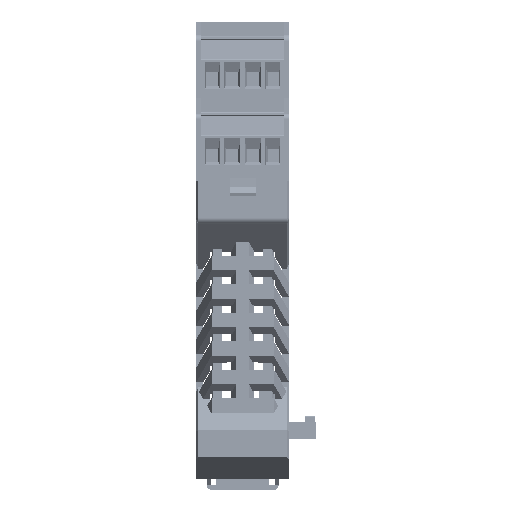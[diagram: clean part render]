
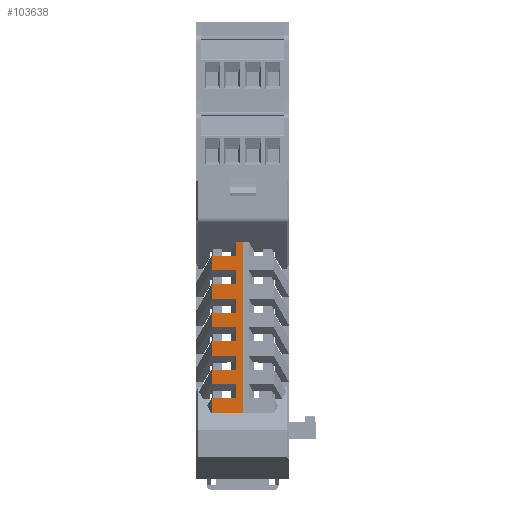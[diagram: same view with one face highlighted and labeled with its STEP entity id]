
A CAD part, front view. The second image highlights one B-rep face of the part: STEP entity #103638.
In plain terms, the highlighted planar face has unit normal (0, -1, 0) as drawn and (1, 0, 0) by its records, which use the part's own axes.
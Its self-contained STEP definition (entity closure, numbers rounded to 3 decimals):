
#103638=ADVANCED_FACE('',(#220617),#220619,.T.);
#220617=FACE_BOUND('',#220618,.T.);
#220618=EDGE_LOOP('',(#314801,#314802,#314803,#314804,#314805,#314806,#314807,#314808,
#314809,#314810,#314811,#314812,#314813,#314814,#314815,#314816,#314817,#314818,
#314819,#314820,#314821,#314822,#314823,#314824,#314825,#314826));
#220619=PLANE('',#220620);
#220620=AXIS2_PLACEMENT_3D('',#220621,#220622,#220623);
#220621=CARTESIAN_POINT('',(42.55,76.5,0.));
#220622=DIRECTION('',(1.,0.,0.));
#220623=DIRECTION('',(0.,0.,-1.));
#314801=ORIENTED_EDGE('',*,*,#370583,.F.);
#314802=ORIENTED_EDGE('',*,*,#370522,.F.);
#314803=ORIENTED_EDGE('',*,*,#370584,.F.);
#314804=ORIENTED_EDGE('',*,*,#370585,.T.);
#314805=ORIENTED_EDGE('',*,*,#370086,.T.);
#314806=ORIENTED_EDGE('',*,*,#370586,.F.);
#314807=ORIENTED_EDGE('',*,*,#370452,.F.);
#314808=ORIENTED_EDGE('',*,*,#370517,.F.);
#314809=ORIENTED_EDGE('',*,*,#370247,.F.);
#314810=ORIENTED_EDGE('',*,*,#370563,.T.);
#314811=ORIENTED_EDGE('',*,*,#370541,.F.);
#314812=ORIENTED_EDGE('',*,*,#370514,.F.);
#314813=ORIENTED_EDGE('',*,*,#370569,.F.);
#314814=ORIENTED_EDGE('',*,*,#370587,.T.);
#314815=ORIENTED_EDGE('',*,*,#370570,.T.);
#314816=ORIENTED_EDGE('',*,*,#370528,.F.);
#314817=ORIENTED_EDGE('',*,*,#370582,.T.);
#314818=ORIENTED_EDGE('',*,*,#370588,.T.);
#314819=ORIENTED_EDGE('',*,*,#370589,.T.);
#314820=ORIENTED_EDGE('',*,*,#370525,.F.);
#314821=ORIENTED_EDGE('',*,*,#370504,.T.);
#314822=ORIENTED_EDGE('',*,*,#370590,.F.);
#314823=ORIENTED_EDGE('',*,*,#370484,.T.);
#314824=ORIENTED_EDGE('',*,*,#370524,.F.);
#314825=ORIENTED_EDGE('',*,*,#370497,.T.);
#314826=ORIENTED_EDGE('',*,*,#370591,.T.);
#370086=EDGE_CURVE('',#435213,#435211,#435214,.T.);
#370247=EDGE_CURVE('',#435487,#435489,#435490,.T.);
#370452=EDGE_CURVE('',#435834,#435836,#435837,.T.);
#370484=EDGE_CURVE('',#435878,#435884,#435886,.T.);
#370497=EDGE_CURVE('',#435906,#435904,#435907,.T.);
#370504=EDGE_CURVE('',#435910,#435914,#435916,.T.);
#370514=EDGE_CURVE('',#435931,#435933,#435934,.T.);
#370517=EDGE_CURVE('',#435489,#435834,#435938,.T.);
#370522=EDGE_CURVE('',#435945,#435947,#435948,.T.);
#370524=EDGE_CURVE('',#435906,#435884,#435950,.T.);
#370525=EDGE_CURVE('',#435910,#435951,#435952,.T.);
#370528=EDGE_CURVE('',#435954,#435956,#435957,.T.);
#370541=EDGE_CURVE('',#435933,#435976,#435977,.T.);
#370563=EDGE_CURVE('',#435487,#435976,#436012,.T.);
#370569=EDGE_CURVE('',#436019,#435931,#436021,.T.);
#370570=EDGE_CURVE('',#436022,#435956,#436023,.T.);
#370582=EDGE_CURVE('',#435954,#436037,#436039,.T.);
#370583=EDGE_CURVE('',#435947,#436040,#436041,.T.);
#370584=EDGE_CURVE('',#436042,#435945,#436043,.T.);
#370585=EDGE_CURVE('',#436042,#435213,#436044,.T.);
#370586=EDGE_CURVE('',#435836,#435211,#436045,.T.);
#370587=EDGE_CURVE('',#436019,#436022,#436046,.T.);
#370588=EDGE_CURVE('',#436037,#436047,#436048,.T.);
#370589=EDGE_CURVE('',#436047,#435951,#436049,.T.);
#370590=EDGE_CURVE('',#435878,#435914,#436050,.T.);
#370591=EDGE_CURVE('',#435904,#436040,#436051,.T.);
#435211=VERTEX_POINT('',#585364);
#435213=VERTEX_POINT('',#585368);
#435214=LINE('',#585369,#585370);
#435487=VERTEX_POINT('',#585971);
#435489=VERTEX_POINT('',#585975);
#435490=LINE('',#585976,#585977);
#435834=VERTEX_POINT('',#586746);
#435836=VERTEX_POINT('',#586750);
#435837=LINE('',#586751,#586752);
#435878=VERTEX_POINT('',#586846);
#435884=VERTEX_POINT('',#586860);
#435886=LINE('',#586864,#586865);
#435904=VERTEX_POINT('',#586906);
#435906=VERTEX_POINT('',#586910);
#435907=LINE('',#586911,#586912);
#435910=VERTEX_POINT('',#586920);
#435914=VERTEX_POINT('',#586930);
#435916=LINE('',#586934,#586935);
#435931=VERTEX_POINT('',#586967);
#435933=VERTEX_POINT('',#586971);
#435934=LINE('',#586972,#586973);
#435938=LINE('',#586982,#586983);
#435945=VERTEX_POINT('',#586997);
#435947=VERTEX_POINT('',#587001);
#435948=LINE('',#587002,#587003);
#435950=LINE('',#587008,#587009);
#435951=VERTEX_POINT('',#587011);
#435952=LINE('',#587012,#587013);
#435954=VERTEX_POINT('',#587018);
#435956=VERTEX_POINT('',#587022);
#435957=LINE('',#587023,#587024);
#435976=VERTEX_POINT('',#587068);
#435977=LINE('',#587069,#587070);
#436012=LINE('',#587148,#587149);
#436019=VERTEX_POINT('',#587165);
#436021=LINE('',#587169,#587170);
#436022=VERTEX_POINT('',#587172);
#436023=LINE('',#587173,#587174);
#436037=VERTEX_POINT('',#587209);
#436039=LINE('',#587213,#587214);
#436040=VERTEX_POINT('',#587216);
#436041=LINE('',#587217,#587218);
#436042=VERTEX_POINT('',#587220);
#436043=LINE('',#587221,#587222);
#436044=LINE('',#587224,#587225);
#436045=LINE('',#587227,#587228);
#436046=LINE('',#587230,#587231);
#436047=VERTEX_POINT('',#587233);
#436048=LINE('',#587234,#587235);
#436049=LINE('',#587237,#587238);
#436050=LINE('',#587240,#587241);
#436051=LINE('',#587243,#587244);
#585364=CARTESIAN_POINT('',(42.55,20.,0.));
#585368=CARTESIAN_POINT('',(42.55,20.,7.547));
#585369=CARTESIAN_POINT('',(42.55,20.,7.547));
#585370=VECTOR('',#585371,1.);
#585371=DIRECTION('',(0.,0.,-1.));
#585971=CARTESIAN_POINT('',(42.55,58.2,7.547));
#585975=CARTESIAN_POINT('',(42.55,58.2,1.5));
#585976=CARTESIAN_POINT('',(42.55,58.2,7.547));
#585977=VECTOR('',#585978,1.);
#585978=DIRECTION('',(0.,0.,-1.));
#586746=CARTESIAN_POINT('',(42.55,61.6,1.5));
#586750=CARTESIAN_POINT('',(42.55,61.6,0.));
#586751=CARTESIAN_POINT('',(42.55,61.6,1.5));
#586752=VECTOR('',#586753,1.);
#586753=DIRECTION('',(0.,0.,-1.));
#586846=CARTESIAN_POINT('',(42.55,34.,7.547));
#586860=CARTESIAN_POINT('',(42.55,34.,1.5));
#586864=CARTESIAN_POINT('',(42.55,34.,7.547));
#586865=VECTOR('',#586866,1.);
#586866=DIRECTION('',(0.,0.,-1.));
#586906=CARTESIAN_POINT('',(42.55,30.6,7.547));
#586910=CARTESIAN_POINT('',(42.55,30.6,1.5));
#586911=CARTESIAN_POINT('',(42.55,30.6,1.5));
#586912=VECTOR('',#586913,1.);
#586913=DIRECTION('',(0.,0.,1.));
#586920=CARTESIAN_POINT('',(42.55,37.5,1.5));
#586930=CARTESIAN_POINT('',(42.55,37.5,7.547));
#586934=CARTESIAN_POINT('',(42.55,37.5,1.5));
#586935=VECTOR('',#586936,1.);
#586936=DIRECTION('',(0.,0.,1.));
#586967=CARTESIAN_POINT('',(42.55,51.3,1.5));
#586971=CARTESIAN_POINT('',(42.55,54.7,1.5));
#586972=CARTESIAN_POINT('',(42.55,51.3,1.5));
#586973=VECTOR('',#586974,1.);
#586974=DIRECTION('',(0.,1.,0.));
#586982=CARTESIAN_POINT('',(42.55,58.2,1.5));
#586983=VECTOR('',#586984,1.);
#586984=DIRECTION('',(0.,1.,0.));
#586997=CARTESIAN_POINT('',(42.55,23.7,1.5));
#587001=CARTESIAN_POINT('',(42.55,27.1,1.5));
#587002=CARTESIAN_POINT('',(42.55,23.7,1.5));
#587003=VECTOR('',#587004,1.);
#587004=DIRECTION('',(0.,1.,0.));
#587008=CARTESIAN_POINT('',(42.55,30.6,1.5));
#587009=VECTOR('',#587010,1.);
#587010=DIRECTION('',(0.,1.,0.));
#587011=CARTESIAN_POINT('',(42.55,40.9,1.5));
#587012=CARTESIAN_POINT('',(42.55,37.5,1.5));
#587013=VECTOR('',#587014,1.);
#587014=DIRECTION('',(0.,1.,0.));
#587018=CARTESIAN_POINT('',(42.55,44.4,1.5));
#587022=CARTESIAN_POINT('',(42.55,47.8,1.5));
#587023=CARTESIAN_POINT('',(42.55,44.4,1.5));
#587024=VECTOR('',#587025,1.);
#587025=DIRECTION('',(0.,1.,0.));
#587068=CARTESIAN_POINT('',(42.55,54.7,7.547));
#587069=CARTESIAN_POINT('',(42.55,54.7,1.5));
#587070=VECTOR('',#587071,1.);
#587071=DIRECTION('',(0.,0.,1.));
#587148=CARTESIAN_POINT('',(42.55,58.2,7.547));
#587149=VECTOR('',#587150,1.);
#587150=DIRECTION('',(0.,-1.,0.));
#587165=CARTESIAN_POINT('',(42.55,51.3,7.547));
#587169=CARTESIAN_POINT('',(42.55,51.3,7.547));
#587170=VECTOR('',#587171,1.);
#587171=DIRECTION('',(0.,0.,-1.));
#587172=CARTESIAN_POINT('',(42.55,47.8,7.547));
#587173=CARTESIAN_POINT('',(42.55,47.8,7.547));
#587174=VECTOR('',#587175,1.);
#587175=DIRECTION('',(0.,0.,-1.));
#587209=CARTESIAN_POINT('',(42.55,44.4,7.547));
#587213=CARTESIAN_POINT('',(42.55,44.4,1.5));
#587214=VECTOR('',#587215,1.);
#587215=DIRECTION('',(0.,0.,1.));
#587216=CARTESIAN_POINT('',(42.55,27.1,7.547));
#587217=CARTESIAN_POINT('',(42.55,27.1,1.5));
#587218=VECTOR('',#587219,1.);
#587219=DIRECTION('',(0.,0.,1.));
#587220=CARTESIAN_POINT('',(42.55,23.7,7.547));
#587221=CARTESIAN_POINT('',(42.55,23.7,7.547));
#587222=VECTOR('',#587223,1.);
#587223=DIRECTION('',(0.,0.,-1.));
#587224=CARTESIAN_POINT('',(42.55,23.7,7.547));
#587225=VECTOR('',#587226,1.);
#587226=DIRECTION('',(0.,-1.,0.));
#587227=CARTESIAN_POINT('',(42.55,61.6,0.));
#587228=VECTOR('',#587229,1.);
#587229=DIRECTION('',(0.,-1.,0.));
#587230=CARTESIAN_POINT('',(42.55,51.3,7.547));
#587231=VECTOR('',#587232,1.);
#587232=DIRECTION('',(0.,-1.,0.));
#587233=CARTESIAN_POINT('',(42.55,40.9,7.547));
#587234=CARTESIAN_POINT('',(42.55,44.4,7.547));
#587235=VECTOR('',#587236,1.);
#587236=DIRECTION('',(0.,-1.,0.));
#587237=CARTESIAN_POINT('',(42.55,40.9,7.547));
#587238=VECTOR('',#587239,1.);
#587239=DIRECTION('',(0.,0.,-1.));
#587240=CARTESIAN_POINT('',(42.55,34.,7.547));
#587241=VECTOR('',#587242,1.);
#587242=DIRECTION('',(0.,1.,0.));
#587243=CARTESIAN_POINT('',(42.55,30.6,7.547));
#587244=VECTOR('',#587245,1.);
#587245=DIRECTION('',(0.,-1.,0.));
